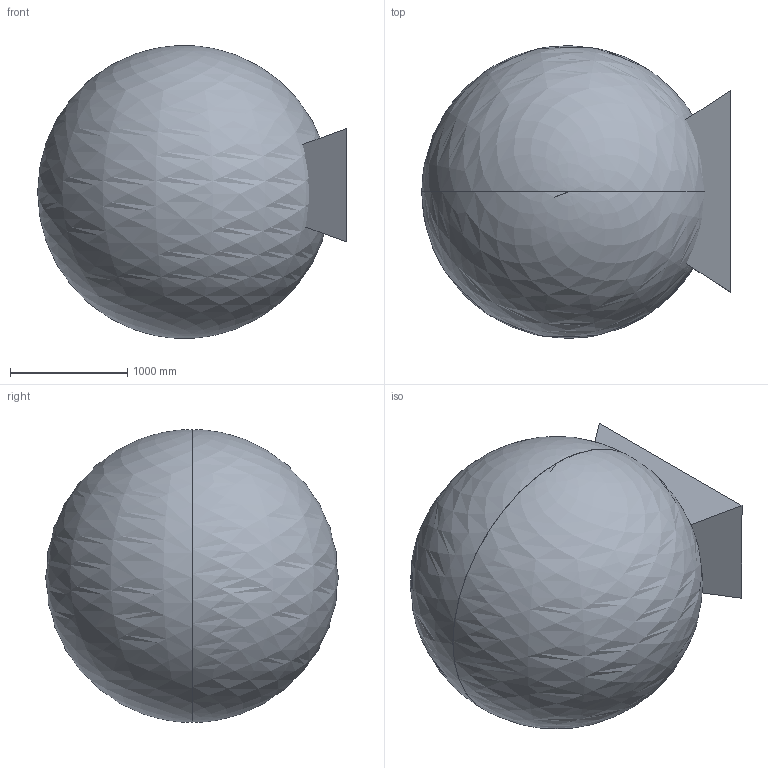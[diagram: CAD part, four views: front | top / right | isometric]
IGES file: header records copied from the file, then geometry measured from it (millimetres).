
Start section: SolidWorks IGES file using analytic representation for surfaces
Global section: file name: C:\Users\jevnim\Desktop\Miha\01_Projekti\2025-04-10-Pregled robota NHC12\NHC12\With range with camera\06vxc12-a00_00.IGS; native system: SolidWorks 2024; preprocessor: SolidWorks 2024; author: jevnim; date: 250416.063641; units: millimetre
Bounding box: 2633.96 x 2499.81 x 2500 mm (x, y, z)
Surface area: 26986343.4 mm2 (no closed solid volume)
Topology: 0 solids, 0 shells, 2695 faces, 31369 edges, 31280 vertices
Faces by surface type: bspline 1673, revolution 1022
